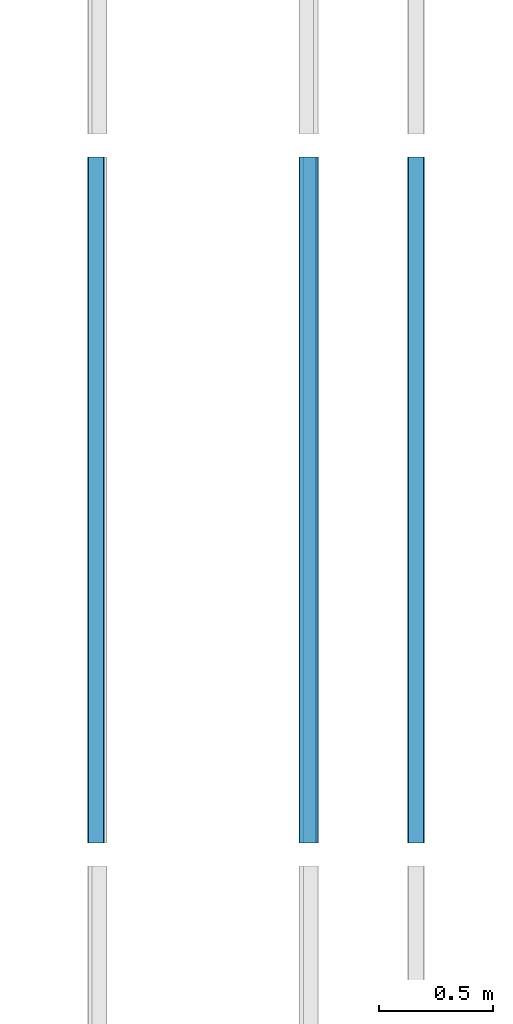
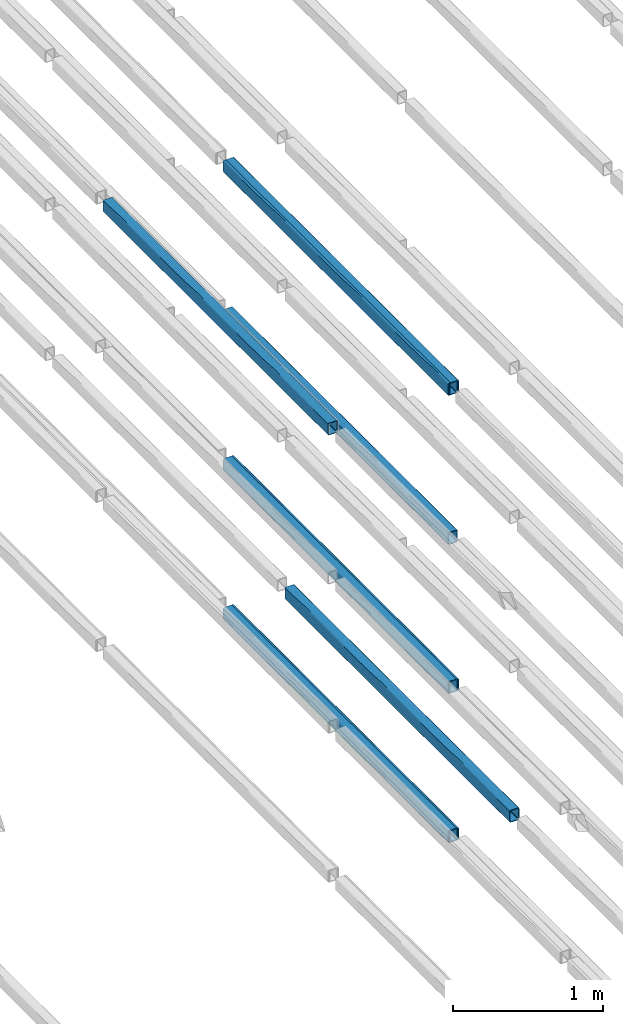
# One storey, part 57 of 290: 9 beams.
"""IFC2X3 building model written with IfcOpenShell, lengths in metres."""

from ifc_helpers import new_model, entity, si_unit, converted_unit, derived_unit, direction, frame, frame_2d, origin, place, context, subcontext, project, spatial, polyline, circle_curve, parameter, trimmed, segment, composite_curve, outline, extrude, material, type_object, element, save


model = new_model("IFC2X3")

# Units and contexts
model_context = context("Model", 3, precision=1e-05, world=origin(), true_north=direction((6.12303176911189e-17, 1.0)))
body_context = subcontext(model_context, "Body", "Model", "MODEL_VIEW")
ifc_project = project(units=[si_unit("LENGTHUNIT", "METRE"), si_unit("AREAUNIT", "SQUARE_METRE"), si_unit("VOLUMEUNIT", "CUBIC_METRE"), converted_unit("PLANEANGLEUNIT", "DEGREE", entity("IfcRatioMeasure", 0.0174532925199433), si_unit("PLANEANGLEUNIT", "RADIAN"), dimensions=[0, 0, 0, 0, 0, 0, 0]), si_unit("MASSUNIT", "GRAM", prefix="KILO"), derived_unit("MASSDENSITYUNIT", [(si_unit("MASSUNIT", "GRAM", prefix="KILO"), 1), (si_unit("LENGTHUNIT", "METRE"), -3)]), derived_unit("MOMENTOFINERTIAUNIT", [(si_unit("LENGTHUNIT", "METRE"), 4)]), si_unit("TIMEUNIT", "SECOND"), si_unit("FREQUENCYUNIT", "HERTZ"), si_unit("THERMODYNAMICTEMPERATUREUNIT", "DEGREE_CELSIUS"), derived_unit("THERMALTRANSMITTANCEUNIT", [(si_unit("MASSUNIT", "GRAM", prefix="KILO"), 1), (si_unit("THERMODYNAMICTEMPERATUREUNIT", "KELVIN"), -1), (si_unit("TIMEUNIT", "SECOND"), -3)]), derived_unit("VOLUMETRICFLOWRATEUNIT", [(si_unit("LENGTHUNIT", "METRE"), 3), (si_unit("TIMEUNIT", "SECOND"), -1)]), si_unit("ELECTRICCURRENTUNIT", "AMPERE"), si_unit("ELECTRICVOLTAGEUNIT", "VOLT"), si_unit("POWERUNIT", "WATT"), si_unit("FORCEUNIT", "NEWTON", prefix="KILO"), si_unit("ILLUMINANCEUNIT", "LUX"), si_unit("LUMINOUSFLUXUNIT", "LUMEN"), si_unit("LUMINOUSINTENSITYUNIT", "CANDELA"), derived_unit("USERDEFINED", [(si_unit("MASSUNIT", "GRAM", prefix="KILO"), -1), (si_unit("LENGTHUNIT", "METRE"), -2), (si_unit("TIMEUNIT", "SECOND"), 3), (si_unit("LUMINOUSFLUXUNIT", "LUMEN"), 1)]), derived_unit("LINEARVELOCITYUNIT", [(si_unit("LENGTHUNIT", "METRE"), 1), (si_unit("TIMEUNIT", "SECOND"), -1)]), si_unit("PRESSUREUNIT", "PASCAL"), derived_unit("USERDEFINED", [(si_unit("LENGTHUNIT", "METRE"), -2), (si_unit("MASSUNIT", "GRAM", prefix="KILO"), 1), (si_unit("TIMEUNIT", "SECOND"), -2)]), derived_unit("LINEARFORCEUNIT", [(si_unit("MASSUNIT", "GRAM", prefix="KILO"), 1), (si_unit("LENGTHUNIT", "METRE"), 1), (si_unit("TIMEUNIT", "SECOND"), -2), (si_unit("LENGTHUNIT", "METRE"), -1)]), derived_unit("PLANARFORCEUNIT", [(si_unit("MASSUNIT", "GRAM", prefix="KILO"), 1), (si_unit("LENGTHUNIT", "METRE"), 1), (si_unit("TIMEUNIT", "SECOND"), -2), (si_unit("LENGTHUNIT", "METRE"), -2)])], contexts=[model_context])

# Site, building, storey
site_placement = place(None, origin())
site = spatial("IfcSite", under=ifc_project, at=site_placement, Name="Default", CompositionType="ELEMENT")
building_placement = place(site_placement, origin())
building = spatial("IfcBuilding", under=site, at=building_placement, CompositionType="ELEMENT")
storey_placement = place(building_placement, frame((0.0, 0.0, 4.0)))
storey = spatial("IfcBuildingStorey", under=building, at=storey_placement, Name="01_OG", CompositionType="ELEMENT", Elevation=4.0)

# Beams
ifc_material = material(Name="Metall - Baustahl S235 blau")
beam_type = type_object("IfcBeamType", Name="RHS Träger (EN 10219-2):RHS 100 x 75 x 5", PredefinedType="NOTDEFINED")
beam_1_placement = place(storey_placement, frame((-200.715111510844, 39.548088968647, -1.2), z_axis=(0.0, 0.0, 1.0), x_axis=(0.0, 1.0, 0.0)))
element("IfcBeam", 1, at=beam_1_placement, inside=storey, type_object=beam_type, material=ifc_material, Name="RHS Träger (EN 10219-2):RHS 100 x 75 x 5", ObjectType="RHS Träger (EN 10219-2):RHS 100 x 75 x 5", context=body_context, shape_type="SweptSolid", body=[
    extrude(outline(composite_curve([segment(trimmed(circle_curve(frame_2d((-0.0274999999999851, -0.0400000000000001), x_axis=(1.0, 0.0)), 0.01), [parameter(180.0)], [parameter(270.0)], True, "PARAMETER"), True, "CONTINUOUS"), segment(polyline([(-0.0274999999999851, -0.05), (0.0274999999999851, -0.05)]), True, "CONTINUOUS"), segment(trimmed(circle_curve(frame_2d((0.0274999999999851, -0.0400000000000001), x_axis=(1.0, 0.0)), 0.01), [parameter(270.0)], [parameter(5.08888749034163e-14)], True, "PARAMETER"), True, "CONTINUOUS"), segment(polyline([(0.0375000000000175, -0.0400000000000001), (0.0375000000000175, 0.0400000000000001)]), True, "CONTINUOUS"), segment(trimmed(circle_curve(frame_2d((0.0274999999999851, 0.0400000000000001), x_axis=(1.0, 0.0)), 0.01), [parameter(360.0)], [parameter(89.9999999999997)], True, "PARAMETER"), True, "CONTINUOUS"), segment(polyline([(0.0274999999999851, 0.05), (-0.0274999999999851, 0.05)]), True, "CONTINUOUS"), segment(trimmed(circle_curve(frame_2d((-0.0274999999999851, 0.0400000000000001), x_axis=(1.0, 0.0)), 0.01), [parameter(90.0000000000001)], [parameter(180.0)], True, "PARAMETER"), True, "CONTINUOUS"), segment(polyline([(-0.0374999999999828, 0.0400000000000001), (-0.0374999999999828, -0.0400000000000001)]), True, "CONTINUOUS")], self_intersect=False), holes=[composite_curve([segment(polyline([(0.0274999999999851, -0.0450000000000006), (-0.0274999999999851, -0.0450000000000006)]), True, "CONTINUOUS"), segment(trimmed(circle_curve(frame_2d((-0.0274999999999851, -0.0400000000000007), x_axis=(1.0, 0.0)), 0.005), [parameter(180.0)], [parameter(270.0)], True, "PARAMETER"), False, "CONTINUOUS"), segment(polyline([(-0.0325000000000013, -0.0400000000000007), (-0.0325000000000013, 0.039999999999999)]), True, "CONTINUOUS"), segment(trimmed(circle_curve(frame_2d((-0.0274999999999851, 0.039999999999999), x_axis=(1.0, 0.0)), 0.005), [parameter(90.0000000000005)], [parameter(180.0)], True, "PARAMETER"), False, "CONTINUOUS"), segment(polyline([(-0.0274999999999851, 0.044999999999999), (0.0274999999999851, 0.044999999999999)]), True, "CONTINUOUS"), segment(trimmed(circle_curve(frame_2d((0.0274999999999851, 0.039999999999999), x_axis=(1.0, 0.0)), 0.005), [parameter(0.0)], [parameter(90.0000000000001)], True, "PARAMETER"), False, "CONTINUOUS"), segment(polyline([(0.0325000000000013, 0.039999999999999), (0.0325000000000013, -0.0400000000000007)]), True, "CONTINUOUS"), segment(trimmed(circle_curve(frame_2d((0.0274999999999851, -0.0400000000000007), x_axis=(1.0, 0.0)), 0.005), [parameter(270.0)], [parameter(4.07110999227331e-13)], True, "PARAMETER"), False, "CONTINUOUS")], self_intersect=False)]), frame((9.99999999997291e-05, 0.0375000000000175, -0.0500000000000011), z_axis=(1.0, 0.0, 0.0), x_axis=(0.0, -1.0, 0.0)), (0.0, 0.0, 1.0), 2.99979999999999),
])
beam_2_placement = place(storey_placement, frame((-201.255111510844, 39.548088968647, -1.2), z_axis=(0.0, 0.0, 1.0), x_axis=(0.0, 1.0, 0.0)))
element("IfcBeam", 2, at=beam_2_placement, inside=storey, type_object=beam_type, material=ifc_material, Name="RHS Träger (EN 10219-2):RHS 100 x 75 x 5", ObjectType="RHS Träger (EN 10219-2):RHS 100 x 75 x 5", context=body_context, shape_type="SweptSolid", body=[
    extrude(outline(composite_curve([segment(polyline([(-0.0400000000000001, -0.0374999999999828), (0.0400000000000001, -0.0374999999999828)]), True, "CONTINUOUS"), segment(trimmed(circle_curve(frame_2d((0.0400000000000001, -0.0274999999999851), x_axis=(0.0, 1.0)), 0.01), [parameter(180.0)], [parameter(270.0)], True, "PARAMETER"), True, "CONTINUOUS"), segment(polyline([(0.05, -0.0274999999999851), (0.05, 0.0274999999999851)]), True, "CONTINUOUS"), segment(trimmed(circle_curve(frame_2d((0.0400000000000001, 0.0274999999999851), x_axis=(0.0, 1.0)), 0.01), [parameter(270.0)], [parameter(4.07110999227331e-13)], True, "PARAMETER"), True, "CONTINUOUS"), segment(polyline([(0.0400000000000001, 0.0375000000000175), (-0.0400000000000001, 0.0375000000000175)]), True, "CONTINUOUS"), segment(trimmed(circle_curve(frame_2d((-0.0400000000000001, 0.0274999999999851), x_axis=(0.0, 1.0)), 0.01), [parameter(360.0)], [parameter(90.0000000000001)], True, "PARAMETER"), True, "CONTINUOUS"), segment(polyline([(-0.05, 0.0274999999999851), (-0.05, -0.0274999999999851)]), True, "CONTINUOUS"), segment(trimmed(circle_curve(frame_2d((-0.0400000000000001, -0.0274999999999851), x_axis=(0.0, 1.0)), 0.01), [parameter(90.0000000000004)], [parameter(180.0)], True, "PARAMETER"), True, "CONTINUOUS")], self_intersect=False), holes=[composite_curve([segment(trimmed(circle_curve(frame_2d((-0.0400000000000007, 0.0274999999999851), x_axis=(0.0, 1.0)), 0.005), [parameter(360.0)], [parameter(89.9999999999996)], True, "PARAMETER"), False, "CONTINUOUS"), segment(polyline([(-0.0400000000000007, 0.0325000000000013), (0.039999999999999, 0.0325000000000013)]), True, "CONTINUOUS"), segment(trimmed(circle_curve(frame_2d((0.039999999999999, 0.0274999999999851), x_axis=(0.0, 1.0)), 0.005), [parameter(270.0)], [parameter(0.0)], True, "PARAMETER"), False, "CONTINUOUS"), segment(polyline([(0.044999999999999, 0.0274999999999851), (0.044999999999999, -0.0274999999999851)]), True, "CONTINUOUS"), segment(trimmed(circle_curve(frame_2d((0.039999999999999, -0.0274999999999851), x_axis=(0.0, 1.0)), 0.005), [parameter(180.0)], [parameter(269.999999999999)], True, "PARAMETER"), False, "CONTINUOUS"), segment(polyline([(0.039999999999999, -0.0325000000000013), (-0.0400000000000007, -0.0325000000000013)]), True, "CONTINUOUS"), segment(trimmed(circle_curve(frame_2d((-0.0400000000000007, -0.0274999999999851), x_axis=(0.0, 1.0)), 0.005), [parameter(90.0000000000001)], [parameter(180.0)], True, "PARAMETER"), False, "CONTINUOUS"), segment(polyline([(-0.0450000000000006, -0.0274999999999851), (-0.0450000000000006, 0.0274999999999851)]), True, "CONTINUOUS")], self_intersect=False)]), frame((0.000100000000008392, -0.0375000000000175, -0.0500000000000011), z_axis=(1.0, 0.0, 0.0), x_axis=(0.0, 0.0, -1.0)), (0.0, 0.0, 1.0), 2.99979999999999),
])
beam_3_placement = place(storey_placement, frame((-201.255111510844, 39.548088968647, 0.0150000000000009), z_axis=(0.0, 0.0, 1.0), x_axis=(0.0, 1.0, 0.0)))
element("IfcBeam", 3, at=beam_3_placement, inside=storey, type_object=beam_type, material=ifc_material, Name="RHS Träger (EN 10219-2):RHS 100 x 75 x 5", ObjectType="RHS Träger (EN 10219-2):RHS 100 x 75 x 5", context=body_context, shape_type="SweptSolid", body=[
    extrude(outline(composite_curve([segment(polyline([(-0.0400000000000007, -0.0374999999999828), (0.0399999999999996, -0.0374999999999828)]), True, "CONTINUOUS"), segment(trimmed(circle_curve(frame_2d((0.0399999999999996, -0.0274999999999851), x_axis=(0.0, 1.0)), 0.01), [parameter(180.0)], [parameter(270.0)], True, "PARAMETER"), True, "CONTINUOUS"), segment(polyline([(0.0499999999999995, -0.0274999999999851), (0.0499999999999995, 0.0274999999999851)]), True, "CONTINUOUS"), segment(trimmed(circle_curve(frame_2d((0.0399999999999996, 0.0274999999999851), x_axis=(0.0, 1.0)), 0.01), [parameter(270.0)], [parameter(4.07110999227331e-13)], True, "PARAMETER"), True, "CONTINUOUS"), segment(polyline([(0.0399999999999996, 0.0375000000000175), (-0.0400000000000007, 0.0375000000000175)]), True, "CONTINUOUS"), segment(trimmed(circle_curve(frame_2d((-0.0400000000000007, 0.0274999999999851), x_axis=(0.0, 1.0)), 0.01), [parameter(360.0)], [parameter(90.0000000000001)], True, "PARAMETER"), True, "CONTINUOUS"), segment(polyline([(-0.0500000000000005, 0.0274999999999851), (-0.0500000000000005, -0.0274999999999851)]), True, "CONTINUOUS"), segment(trimmed(circle_curve(frame_2d((-0.0400000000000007, -0.0274999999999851), x_axis=(0.0, 1.0)), 0.01), [parameter(90.0000000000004)], [parameter(180.0)], True, "PARAMETER"), True, "CONTINUOUS")], self_intersect=False), holes=[composite_curve([segment(trimmed(circle_curve(frame_2d((-0.0400000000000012, 0.0274999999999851), x_axis=(0.0, 1.0)), 0.005), [parameter(360.0)], [parameter(89.9999999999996)], True, "PARAMETER"), False, "CONTINUOUS"), segment(polyline([(-0.0400000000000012, 0.0325000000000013), (0.0399999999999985, 0.0325000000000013)]), True, "CONTINUOUS"), segment(trimmed(circle_curve(frame_2d((0.0399999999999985, 0.0274999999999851), x_axis=(0.0, 1.0)), 0.005), [parameter(270.0)], [parameter(0.0)], True, "PARAMETER"), False, "CONTINUOUS"), segment(polyline([(0.0449999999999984, 0.0274999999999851), (0.0449999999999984, -0.0274999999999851)]), True, "CONTINUOUS"), segment(trimmed(circle_curve(frame_2d((0.0399999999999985, -0.0274999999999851), x_axis=(0.0, 1.0)), 0.005), [parameter(180.0)], [parameter(269.999999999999)], True, "PARAMETER"), False, "CONTINUOUS"), segment(polyline([(0.0399999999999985, -0.0325000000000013), (-0.0400000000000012, -0.0325000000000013)]), True, "CONTINUOUS"), segment(trimmed(circle_curve(frame_2d((-0.0400000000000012, -0.0274999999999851), x_axis=(0.0, 1.0)), 0.005), [parameter(90.0000000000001)], [parameter(180.0)], True, "PARAMETER"), False, "CONTINUOUS"), segment(polyline([(-0.0450000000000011, -0.0274999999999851), (-0.0450000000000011, 0.0274999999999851)]), True, "CONTINUOUS")], self_intersect=False)]), frame((0.000100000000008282, -0.0375000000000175, -0.0500000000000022), z_axis=(1.0, 0.0, 0.0), x_axis=(0.0, 0.0, -1.0)), (0.0, 0.0, 1.0), 2.99979999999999),
])
beam_4_placement = place(storey_placement, frame((-201.255111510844, 39.548088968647, 2.445), z_axis=(0.0, 0.0, 1.0), x_axis=(0.0, 1.0, 0.0)))
element("IfcBeam", 4, at=beam_4_placement, inside=storey, type_object=beam_type, material=ifc_material, Name="RHS Träger (EN 10219-2):RHS 100 x 75 x 5", ObjectType="RHS Träger (EN 10219-2):RHS 100 x 75 x 5", context=body_context, shape_type="SweptSolid", body=[
    extrude(outline(composite_curve([segment(polyline([(-0.0399999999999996, -0.0374999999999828), (0.0399999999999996, -0.0374999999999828)]), True, "CONTINUOUS"), segment(trimmed(circle_curve(frame_2d((0.0399999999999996, -0.0274999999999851), x_axis=(0.0, 1.0)), 0.01), [parameter(180.0)], [parameter(270.0)], True, "PARAMETER"), True, "CONTINUOUS"), segment(polyline([(0.0500000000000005, -0.0274999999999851), (0.0500000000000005, 0.0274999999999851)]), True, "CONTINUOUS"), segment(trimmed(circle_curve(frame_2d((0.0399999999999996, 0.0274999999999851), x_axis=(0.0, 1.0)), 0.01), [parameter(270.0)], [parameter(4.07110999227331e-13)], True, "PARAMETER"), True, "CONTINUOUS"), segment(polyline([(0.0399999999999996, 0.0375000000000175), (-0.0399999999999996, 0.0375000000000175)]), True, "CONTINUOUS"), segment(trimmed(circle_curve(frame_2d((-0.0399999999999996, 0.0274999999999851), x_axis=(0.0, 1.0)), 0.01), [parameter(360.0)], [parameter(90.0000000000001)], True, "PARAMETER"), True, "CONTINUOUS"), segment(polyline([(-0.0499999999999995, 0.0274999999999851), (-0.0499999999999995, -0.0274999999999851)]), True, "CONTINUOUS"), segment(trimmed(circle_curve(frame_2d((-0.0399999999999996, -0.0274999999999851), x_axis=(0.0, 1.0)), 0.01), [parameter(90.0000000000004)], [parameter(180.0)], True, "PARAMETER"), True, "CONTINUOUS")], self_intersect=False), holes=[composite_curve([segment(trimmed(circle_curve(frame_2d((-0.0400000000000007, 0.0274999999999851), x_axis=(0.0, 1.0)), 0.005), [parameter(360.0)], [parameter(89.9999999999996)], True, "PARAMETER"), False, "CONTINUOUS"), segment(polyline([(-0.0400000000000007, 0.0325000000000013), (0.0399999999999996, 0.0325000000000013)]), True, "CONTINUOUS"), segment(trimmed(circle_curve(frame_2d((0.0399999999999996, 0.0274999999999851), x_axis=(0.0, 1.0)), 0.005), [parameter(270.0)], [parameter(0.0)], True, "PARAMETER"), False, "CONTINUOUS"), segment(polyline([(0.0449999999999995, 0.0274999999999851), (0.0449999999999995, -0.0274999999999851)]), True, "CONTINUOUS"), segment(trimmed(circle_curve(frame_2d((0.0399999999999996, -0.0274999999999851), x_axis=(0.0, 1.0)), 0.005), [parameter(180.0)], [parameter(269.999999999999)], True, "PARAMETER"), False, "CONTINUOUS"), segment(polyline([(0.0399999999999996, -0.0325000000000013), (-0.0400000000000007, -0.0325000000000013)]), True, "CONTINUOUS"), segment(trimmed(circle_curve(frame_2d((-0.0400000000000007, -0.0274999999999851), x_axis=(0.0, 1.0)), 0.005), [parameter(90.0000000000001)], [parameter(180.0)], True, "PARAMETER"), False, "CONTINUOUS"), segment(polyline([(-0.0450000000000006, -0.0274999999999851), (-0.0450000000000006, 0.0274999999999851)]), True, "CONTINUOUS")], self_intersect=False)]), frame((0.000100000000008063, -0.0375000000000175, -0.0500000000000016), z_axis=(1.0, 0.0, 0.0), x_axis=(0.0, 0.0, -1.0)), (0.0, 0.0, 1.0), 2.99979999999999),
])
beam_5_placement = place(storey_placement, frame((-202.115111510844, 39.548088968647, 2.445), z_axis=(0.0, 0.0, 1.0), x_axis=(0.0, 1.0, 0.0)))
element("IfcBeam", 5, at=beam_5_placement, inside=storey, type_object=beam_type, material=ifc_material, Name="RHS Träger (EN 10219-2):RHS 100 x 75 x 5", ObjectType="RHS Träger (EN 10219-2):RHS 100 x 75 x 5", context=body_context, shape_type="SweptSolid", body=[
    extrude(outline(composite_curve([segment(trimmed(circle_curve(frame_2d((-0.0274999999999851, -0.0399999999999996), x_axis=(1.0, 0.0)), 0.01), [parameter(180.0)], [parameter(270.0)], True, "PARAMETER"), True, "CONTINUOUS"), segment(polyline([(-0.0274999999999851, -0.0499999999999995), (0.0274999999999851, -0.0499999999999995)]), True, "CONTINUOUS"), segment(trimmed(circle_curve(frame_2d((0.0274999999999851, -0.0399999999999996), x_axis=(1.0, 0.0)), 0.01), [parameter(270.0)], [parameter(5.08888749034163e-14)], True, "PARAMETER"), True, "CONTINUOUS"), segment(polyline([(0.0375000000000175, -0.0399999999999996), (0.0375000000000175, 0.0399999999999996)]), True, "CONTINUOUS"), segment(trimmed(circle_curve(frame_2d((0.0274999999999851, 0.0399999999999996), x_axis=(1.0, 0.0)), 0.01), [parameter(360.0)], [parameter(89.9999999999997)], True, "PARAMETER"), True, "CONTINUOUS"), segment(polyline([(0.0274999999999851, 0.0500000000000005), (-0.0274999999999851, 0.0500000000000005)]), True, "CONTINUOUS"), segment(trimmed(circle_curve(frame_2d((-0.0274999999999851, 0.0399999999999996), x_axis=(1.0, 0.0)), 0.01), [parameter(90.0000000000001)], [parameter(180.0)], True, "PARAMETER"), True, "CONTINUOUS"), segment(polyline([(-0.0374999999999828, 0.0399999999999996), (-0.0374999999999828, -0.0399999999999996)]), True, "CONTINUOUS")], self_intersect=False), holes=[composite_curve([segment(polyline([(0.0274999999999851, -0.0450000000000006), (-0.0274999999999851, -0.0450000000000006)]), True, "CONTINUOUS"), segment(trimmed(circle_curve(frame_2d((-0.0274999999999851, -0.0400000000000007), x_axis=(1.0, 0.0)), 0.005), [parameter(180.0)], [parameter(270.0)], True, "PARAMETER"), False, "CONTINUOUS"), segment(polyline([(-0.0325000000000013, -0.0400000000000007), (-0.0325000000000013, 0.0399999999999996)]), True, "CONTINUOUS"), segment(trimmed(circle_curve(frame_2d((-0.0274999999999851, 0.0399999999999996), x_axis=(1.0, 0.0)), 0.005), [parameter(90.0000000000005)], [parameter(180.0)], True, "PARAMETER"), False, "CONTINUOUS"), segment(polyline([(-0.0274999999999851, 0.0449999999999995), (0.0274999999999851, 0.0449999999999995)]), True, "CONTINUOUS"), segment(trimmed(circle_curve(frame_2d((0.0274999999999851, 0.0399999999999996), x_axis=(1.0, 0.0)), 0.005), [parameter(0.0)], [parameter(90.0000000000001)], True, "PARAMETER"), False, "CONTINUOUS"), segment(polyline([(0.0325000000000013, 0.0399999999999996), (0.0325000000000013, -0.0400000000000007)]), True, "CONTINUOUS"), segment(trimmed(circle_curve(frame_2d((0.0274999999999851, -0.0400000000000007), x_axis=(1.0, 0.0)), 0.005), [parameter(270.0)], [parameter(4.07110999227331e-13)], True, "PARAMETER"), False, "CONTINUOUS")], self_intersect=False)]), frame((9.99999999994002e-05, 0.0375000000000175, -0.0500000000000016), z_axis=(1.0, 0.0, 0.0), x_axis=(0.0, -1.0, 0.0)), (0.0, 0.0, 1.0), 2.99979999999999),
])
beam_6_placement = place(storey_placement, frame((-201.265111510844, 39.548088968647, -1.2), z_axis=(0.0, 0.0, 1.0), x_axis=(0.0, 1.0, 0.0)))
element("IfcBeam", 6, at=beam_6_placement, inside=storey, type_object=beam_type, material=ifc_material, Name="RHS Träger (EN 10219-2):RHS 100 x 75 x 5", ObjectType="RHS Träger (EN 10219-2):RHS 100 x 75 x 5", context=body_context, shape_type="SweptSolid", body=[
    extrude(outline(composite_curve([segment(polyline([(-0.0400000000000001, -0.0374999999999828), (0.0400000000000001, -0.0374999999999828)]), True, "CONTINUOUS"), segment(trimmed(circle_curve(frame_2d((0.0400000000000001, -0.0274999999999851), x_axis=(0.0, 1.0)), 0.01), [parameter(180.0)], [parameter(270.0)], True, "PARAMETER"), True, "CONTINUOUS"), segment(polyline([(0.05, -0.0274999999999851), (0.05, 0.0274999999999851)]), True, "CONTINUOUS"), segment(trimmed(circle_curve(frame_2d((0.0400000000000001, 0.0274999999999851), x_axis=(0.0, 1.0)), 0.01), [parameter(270.0)], [parameter(4.07110999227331e-13)], True, "PARAMETER"), True, "CONTINUOUS"), segment(polyline([(0.0400000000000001, 0.0375000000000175), (-0.0400000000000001, 0.0375000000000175)]), True, "CONTINUOUS"), segment(trimmed(circle_curve(frame_2d((-0.0400000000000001, 0.0274999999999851), x_axis=(0.0, 1.0)), 0.01), [parameter(360.0)], [parameter(90.0000000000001)], True, "PARAMETER"), True, "CONTINUOUS"), segment(polyline([(-0.05, 0.0274999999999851), (-0.05, -0.0274999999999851)]), True, "CONTINUOUS"), segment(trimmed(circle_curve(frame_2d((-0.0400000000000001, -0.0274999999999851), x_axis=(0.0, 1.0)), 0.01), [parameter(90.0000000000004)], [parameter(180.0)], True, "PARAMETER"), True, "CONTINUOUS")], self_intersect=False), holes=[composite_curve([segment(trimmed(circle_curve(frame_2d((-0.0400000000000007, 0.0274999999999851), x_axis=(0.0, 1.0)), 0.005), [parameter(360.0)], [parameter(89.9999999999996)], True, "PARAMETER"), False, "CONTINUOUS"), segment(polyline([(-0.0400000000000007, 0.0325000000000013), (0.039999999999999, 0.0325000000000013)]), True, "CONTINUOUS"), segment(trimmed(circle_curve(frame_2d((0.039999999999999, 0.0274999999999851), x_axis=(0.0, 1.0)), 0.005), [parameter(270.0)], [parameter(0.0)], True, "PARAMETER"), False, "CONTINUOUS"), segment(polyline([(0.044999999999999, 0.0274999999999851), (0.044999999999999, -0.0274999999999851)]), True, "CONTINUOUS"), segment(trimmed(circle_curve(frame_2d((0.039999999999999, -0.0274999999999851), x_axis=(0.0, 1.0)), 0.005), [parameter(180.0)], [parameter(269.999999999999)], True, "PARAMETER"), False, "CONTINUOUS"), segment(polyline([(0.039999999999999, -0.0325000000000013), (-0.0400000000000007, -0.0325000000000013)]), True, "CONTINUOUS"), segment(trimmed(circle_curve(frame_2d((-0.0400000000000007, -0.0274999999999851), x_axis=(0.0, 1.0)), 0.005), [parameter(90.0000000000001)], [parameter(180.0)], True, "PARAMETER"), False, "CONTINUOUS"), segment(polyline([(-0.0450000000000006, -0.0274999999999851), (-0.0450000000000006, 0.0274999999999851)]), True, "CONTINUOUS")], self_intersect=False)]), frame((0.000100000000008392, -0.0375000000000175, -0.0500000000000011), z_axis=(1.0, 0.0, 0.0), x_axis=(0.0, 0.0, -1.0)), (0.0, 0.0, 1.0), 2.99979999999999),
])
beam_7_placement = place(storey_placement, frame((-201.265111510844, 39.548088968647, 0.0150000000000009), z_axis=(0.0, 0.0, 1.0), x_axis=(0.0, 1.0, 0.0)))
element("IfcBeam", 7, at=beam_7_placement, inside=storey, type_object=beam_type, material=ifc_material, Name="RHS Träger (EN 10219-2):RHS 100 x 75 x 5", ObjectType="RHS Träger (EN 10219-2):RHS 100 x 75 x 5", context=body_context, shape_type="SweptSolid", body=[
    extrude(outline(composite_curve([segment(polyline([(-0.0400000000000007, -0.0374999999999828), (0.0399999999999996, -0.0374999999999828)]), True, "CONTINUOUS"), segment(trimmed(circle_curve(frame_2d((0.0399999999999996, -0.0274999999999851), x_axis=(0.0, 1.0)), 0.01), [parameter(180.0)], [parameter(270.0)], True, "PARAMETER"), True, "CONTINUOUS"), segment(polyline([(0.0499999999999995, -0.0274999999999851), (0.0499999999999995, 0.0274999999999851)]), True, "CONTINUOUS"), segment(trimmed(circle_curve(frame_2d((0.0399999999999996, 0.0274999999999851), x_axis=(0.0, 1.0)), 0.01), [parameter(270.0)], [parameter(4.07110999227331e-13)], True, "PARAMETER"), True, "CONTINUOUS"), segment(polyline([(0.0399999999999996, 0.0375000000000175), (-0.0400000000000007, 0.0375000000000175)]), True, "CONTINUOUS"), segment(trimmed(circle_curve(frame_2d((-0.0400000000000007, 0.0274999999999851), x_axis=(0.0, 1.0)), 0.01), [parameter(360.0)], [parameter(90.0000000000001)], True, "PARAMETER"), True, "CONTINUOUS"), segment(polyline([(-0.0500000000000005, 0.0274999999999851), (-0.0500000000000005, -0.0274999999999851)]), True, "CONTINUOUS"), segment(trimmed(circle_curve(frame_2d((-0.0400000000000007, -0.0274999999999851), x_axis=(0.0, 1.0)), 0.01), [parameter(90.0000000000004)], [parameter(180.0)], True, "PARAMETER"), True, "CONTINUOUS")], self_intersect=False), holes=[composite_curve([segment(trimmed(circle_curve(frame_2d((-0.0400000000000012, 0.0274999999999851), x_axis=(0.0, 1.0)), 0.005), [parameter(360.0)], [parameter(89.9999999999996)], True, "PARAMETER"), False, "CONTINUOUS"), segment(polyline([(-0.0400000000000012, 0.0325000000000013), (0.0399999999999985, 0.0325000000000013)]), True, "CONTINUOUS"), segment(trimmed(circle_curve(frame_2d((0.0399999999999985, 0.0274999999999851), x_axis=(0.0, 1.0)), 0.005), [parameter(270.0)], [parameter(0.0)], True, "PARAMETER"), False, "CONTINUOUS"), segment(polyline([(0.0449999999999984, 0.0274999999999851), (0.0449999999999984, -0.0274999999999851)]), True, "CONTINUOUS"), segment(trimmed(circle_curve(frame_2d((0.0399999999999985, -0.0274999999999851), x_axis=(0.0, 1.0)), 0.005), [parameter(180.0)], [parameter(269.999999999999)], True, "PARAMETER"), False, "CONTINUOUS"), segment(polyline([(0.0399999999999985, -0.0325000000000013), (-0.0400000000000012, -0.0325000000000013)]), True, "CONTINUOUS"), segment(trimmed(circle_curve(frame_2d((-0.0400000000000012, -0.0274999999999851), x_axis=(0.0, 1.0)), 0.005), [parameter(90.0000000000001)], [parameter(180.0)], True, "PARAMETER"), False, "CONTINUOUS"), segment(polyline([(-0.0450000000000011, -0.0274999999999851), (-0.0450000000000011, 0.0274999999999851)]), True, "CONTINUOUS")], self_intersect=False)]), frame((0.000100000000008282, -0.0375000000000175, -0.0500000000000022), z_axis=(1.0, 0.0, 0.0), x_axis=(0.0, 0.0, -1.0)), (0.0, 0.0, 1.0), 2.99979999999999),
])
beam_8_placement = place(storey_placement, frame((-201.265111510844, 39.548088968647, 1.23), z_axis=(0.0, 0.0, 1.0), x_axis=(0.0, 1.0, 0.0)))
element("IfcBeam", 8, at=beam_8_placement, inside=storey, type_object=beam_type, material=ifc_material, Name="RHS Träger (EN 10219-2):RHS 100 x 75 x 5", ObjectType="RHS Träger (EN 10219-2):RHS 100 x 75 x 5", context=body_context, shape_type="SweptSolid", body=[
    extrude(outline(composite_curve([segment(polyline([(-0.0399999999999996, -0.0374999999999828), (0.0399999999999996, -0.0374999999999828)]), True, "CONTINUOUS"), segment(trimmed(circle_curve(frame_2d((0.0399999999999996, -0.0274999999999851), x_axis=(0.0, 1.0)), 0.01), [parameter(180.0)], [parameter(270.0)], True, "PARAMETER"), True, "CONTINUOUS"), segment(polyline([(0.0500000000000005, -0.0274999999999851), (0.0500000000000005, 0.0274999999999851)]), True, "CONTINUOUS"), segment(trimmed(circle_curve(frame_2d((0.0399999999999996, 0.0274999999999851), x_axis=(0.0, 1.0)), 0.01), [parameter(270.0)], [parameter(4.07110999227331e-13)], True, "PARAMETER"), True, "CONTINUOUS"), segment(polyline([(0.0399999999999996, 0.0375000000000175), (-0.0399999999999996, 0.0375000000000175)]), True, "CONTINUOUS"), segment(trimmed(circle_curve(frame_2d((-0.0399999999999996, 0.0274999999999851), x_axis=(0.0, 1.0)), 0.01), [parameter(360.0)], [parameter(90.0000000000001)], True, "PARAMETER"), True, "CONTINUOUS"), segment(polyline([(-0.0499999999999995, 0.0274999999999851), (-0.0499999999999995, -0.0274999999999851)]), True, "CONTINUOUS"), segment(trimmed(circle_curve(frame_2d((-0.0399999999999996, -0.0274999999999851), x_axis=(0.0, 1.0)), 0.01), [parameter(90.0000000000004)], [parameter(180.0)], True, "PARAMETER"), True, "CONTINUOUS")], self_intersect=False), holes=[composite_curve([segment(trimmed(circle_curve(frame_2d((-0.0400000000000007, 0.0274999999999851), x_axis=(0.0, 1.0)), 0.005), [parameter(360.0)], [parameter(89.9999999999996)], True, "PARAMETER"), False, "CONTINUOUS"), segment(polyline([(-0.0400000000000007, 0.0325000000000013), (0.0399999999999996, 0.0325000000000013)]), True, "CONTINUOUS"), segment(trimmed(circle_curve(frame_2d((0.0399999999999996, 0.0274999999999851), x_axis=(0.0, 1.0)), 0.005), [parameter(270.0)], [parameter(0.0)], True, "PARAMETER"), False, "CONTINUOUS"), segment(polyline([(0.0449999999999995, 0.0274999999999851), (0.0449999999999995, -0.0274999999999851)]), True, "CONTINUOUS"), segment(trimmed(circle_curve(frame_2d((0.0399999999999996, -0.0274999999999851), x_axis=(0.0, 1.0)), 0.005), [parameter(180.0)], [parameter(269.999999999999)], True, "PARAMETER"), False, "CONTINUOUS"), segment(polyline([(0.0399999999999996, -0.0325000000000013), (-0.0400000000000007, -0.0325000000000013)]), True, "CONTINUOUS"), segment(trimmed(circle_curve(frame_2d((-0.0400000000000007, -0.0274999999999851), x_axis=(0.0, 1.0)), 0.005), [parameter(90.0000000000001)], [parameter(180.0)], True, "PARAMETER"), False, "CONTINUOUS"), segment(polyline([(-0.0450000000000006, -0.0274999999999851), (-0.0450000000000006, 0.0274999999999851)]), True, "CONTINUOUS")], self_intersect=False)]), frame((0.000100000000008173, -0.0375000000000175, -0.0500000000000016), z_axis=(1.0, 0.0, 0.0), x_axis=(0.0, 0.0, -1.0)), (0.0, 0.0, 1.0), 2.99979999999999),
])
beam_9_placement = place(storey_placement, frame((-201.265111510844, 39.548088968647, 2.445), z_axis=(0.0, 0.0, 1.0), x_axis=(0.0, 1.0, 0.0)))
element("IfcBeam", 9, at=beam_9_placement, inside=storey, type_object=beam_type, material=ifc_material, Name="RHS Träger (EN 10219-2):RHS 100 x 75 x 5", ObjectType="RHS Träger (EN 10219-2):RHS 100 x 75 x 5", context=body_context, shape_type="SweptSolid", body=[
    extrude(outline(composite_curve([segment(polyline([(-0.0399999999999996, -0.0374999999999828), (0.0399999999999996, -0.0374999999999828)]), True, "CONTINUOUS"), segment(trimmed(circle_curve(frame_2d((0.0399999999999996, -0.0274999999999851), x_axis=(0.0, 1.0)), 0.01), [parameter(180.0)], [parameter(270.0)], True, "PARAMETER"), True, "CONTINUOUS"), segment(polyline([(0.0500000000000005, -0.0274999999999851), (0.0500000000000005, 0.0274999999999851)]), True, "CONTINUOUS"), segment(trimmed(circle_curve(frame_2d((0.0399999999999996, 0.0274999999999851), x_axis=(0.0, 1.0)), 0.01), [parameter(270.0)], [parameter(4.07110999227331e-13)], True, "PARAMETER"), True, "CONTINUOUS"), segment(polyline([(0.0399999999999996, 0.0375000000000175), (-0.0399999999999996, 0.0375000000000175)]), True, "CONTINUOUS"), segment(trimmed(circle_curve(frame_2d((-0.0399999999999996, 0.0274999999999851), x_axis=(0.0, 1.0)), 0.01), [parameter(360.0)], [parameter(90.0000000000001)], True, "PARAMETER"), True, "CONTINUOUS"), segment(polyline([(-0.0499999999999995, 0.0274999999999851), (-0.0499999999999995, -0.0274999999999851)]), True, "CONTINUOUS"), segment(trimmed(circle_curve(frame_2d((-0.0399999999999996, -0.0274999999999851), x_axis=(0.0, 1.0)), 0.01), [parameter(90.0000000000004)], [parameter(180.0)], True, "PARAMETER"), True, "CONTINUOUS")], self_intersect=False), holes=[composite_curve([segment(trimmed(circle_curve(frame_2d((-0.0400000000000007, 0.0274999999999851), x_axis=(0.0, 1.0)), 0.005), [parameter(360.0)], [parameter(89.9999999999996)], True, "PARAMETER"), False, "CONTINUOUS"), segment(polyline([(-0.0400000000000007, 0.0325000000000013), (0.0399999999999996, 0.0325000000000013)]), True, "CONTINUOUS"), segment(trimmed(circle_curve(frame_2d((0.0399999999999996, 0.0274999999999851), x_axis=(0.0, 1.0)), 0.005), [parameter(270.0)], [parameter(0.0)], True, "PARAMETER"), False, "CONTINUOUS"), segment(polyline([(0.0449999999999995, 0.0274999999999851), (0.0449999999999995, -0.0274999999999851)]), True, "CONTINUOUS"), segment(trimmed(circle_curve(frame_2d((0.0399999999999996, -0.0274999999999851), x_axis=(0.0, 1.0)), 0.005), [parameter(180.0)], [parameter(269.999999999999)], True, "PARAMETER"), False, "CONTINUOUS"), segment(polyline([(0.0399999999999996, -0.0325000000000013), (-0.0400000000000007, -0.0325000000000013)]), True, "CONTINUOUS"), segment(trimmed(circle_curve(frame_2d((-0.0400000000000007, -0.0274999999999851), x_axis=(0.0, 1.0)), 0.005), [parameter(90.0000000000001)], [parameter(180.0)], True, "PARAMETER"), False, "CONTINUOUS"), segment(polyline([(-0.0450000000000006, -0.0274999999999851), (-0.0450000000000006, 0.0274999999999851)]), True, "CONTINUOUS")], self_intersect=False)]), frame((0.000100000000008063, -0.0375000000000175, -0.0500000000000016), z_axis=(1.0, 0.0, 0.0), x_axis=(0.0, 0.0, -1.0)), (0.0, 0.0, 1.0), 2.99979999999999),
])

save(model, "model.ifc")
